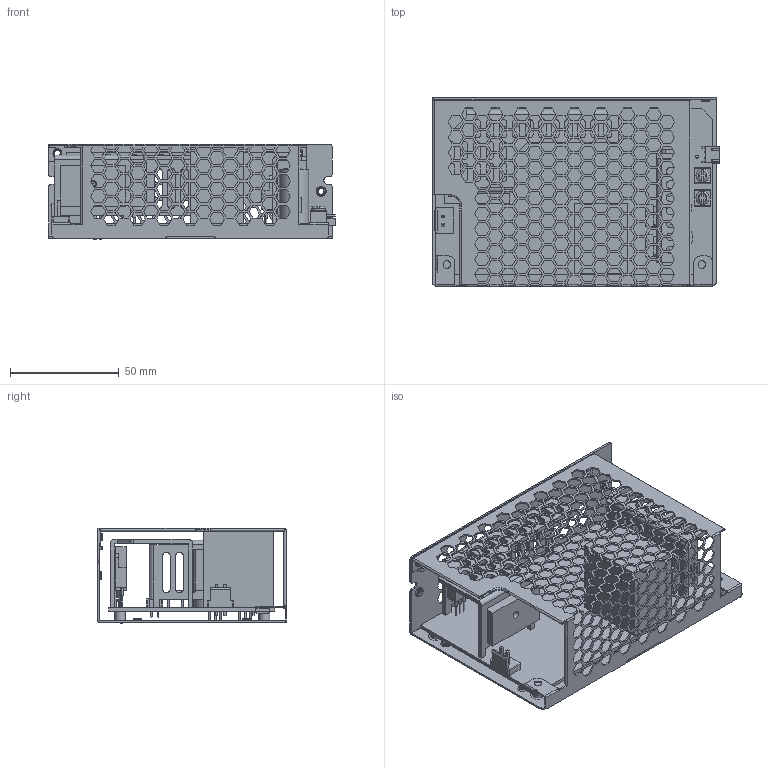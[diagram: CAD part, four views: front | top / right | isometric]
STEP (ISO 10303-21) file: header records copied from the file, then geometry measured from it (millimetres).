
FILE_DESCRIPTION(('Creo Elements/Direct Modeling STEP Export'),'2;1');
FILE_NAME('RPS-400-C.stp','2016-09-08T13:35:41',(''),(''),'PTC Creo Elements/Direct Modeling STEP processor for AP214 (Solid Model)','PTC Creo Elements/Direct Modeling 19.0 09-May-2014 (C) Parametric Technology GmbH','');
FILE_SCHEMA(('AUTOMOTIVE_DESIGN { 1 0 10303 214 1 1 1 1 }'));
Length unit declared in the file: millimetre
Products named in the file (31): 55; M3-6Lê°˜W-4; 946A-D; BASE; 946; JS1120R.1.1; p1.1; 8; JS1120R.1; a1; pcb; p1; 555.1; 555.1.1; 555.1.2; p2.1; pin.1.1.2; hs4.1; R; p2.1.1; hs4; 1.2.1; JS100107; MOS15.5x10.1.1.1.1.1.1.1.1; MOS15.5x10.1.1.1.1.1.1.1.2; MOS; MOSTO3P; a2; RPS-400-C
Assembly tree (37 placements, depth 5):
  RPS-400-C
    a2
      R  x2
      MOSTO3P
      MOS
        MOS15.5x10.1.1.1.1.1.1.1.2  x2
        MOS15.5x10.1.1.1.1.1.1.1.1
      JS100107
        1.2.1  x2
        p1
      hs4
        pin.1.1.2
        p2.1.1
      hs4.1
        pin.1.1.2
        p2.1
      555.1.2
      555.1.1
      555.1
      p1
      pcb
      a1
        JS1120R.1
          8  x2
          p1.1
        JS1120R.1.1
    946
      BASE
        946A-D
        M3-6Lê°˜W-4  x4
    55
Bounding box: 131.5 x 86.6 x 43.62 mm (x, y, z)
Volume: 84760.4 mm3; surface area: 99200.2 mm2
Topology: 27 solids, 27 shells, 2767 faces, 7936 edges, 5227 vertices
Faces by surface type: plane 2352, cylinder 331, torus 34, bspline 32, cone 18
Entity records: 91597 total; most frequent: CARTESIAN_POINT 19202, ORIENTED_EDGE 15448, DIRECTION 13189, EDGE_CURVE 7724, VECTOR 6887, LINE 6887, VERTEX_POINT 5093, EDGE_LOOP 3391
